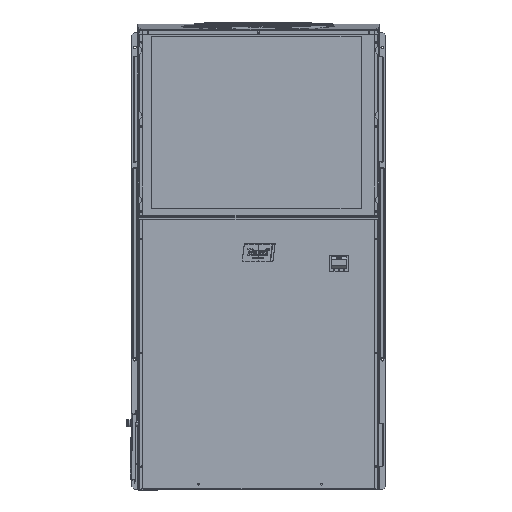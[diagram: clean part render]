
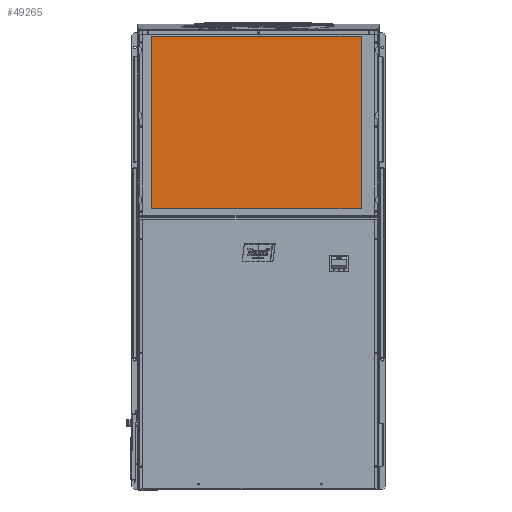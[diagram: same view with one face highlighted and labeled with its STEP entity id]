
A CAD part, top view. The second image highlights one B-rep face of the part: STEP entity #49265.
In plain terms, the highlighted planar face has unit normal (0, 0, 1).
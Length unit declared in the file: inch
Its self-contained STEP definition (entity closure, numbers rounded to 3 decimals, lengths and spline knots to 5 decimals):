
#5994 = ORIENTED_EDGE ( 'NONE', *, *, #65967, .T. ) ;
#8623 = CARTESIAN_POINT ( 'NONE',  ( -30.95619, 38.79123, 0.028 ) ) ;
#14607 = CARTESIAN_POINT ( 'NONE',  ( 1.29381, 12.36313, 0.028 ) ) ;
#16249 = DIRECTION ( 'NONE',  ( 0., 0., 1. ) ) ;
#18789 = CARTESIAN_POINT ( 'NONE',  ( -30.95619, 12.36313, 0.028 ) ) ;
#20671 = EDGE_LOOP ( 'NONE', ( #5994, #107908, #72309, #51583 ) ) ;
#23962 = DIRECTION ( 'NONE',  ( 0., 1., 0. ) ) ;
#25529 = VECTOR ( 'NONE', #23962, 39.37008 ) ;
#27054 = CARTESIAN_POINT ( 'NONE',  ( 1.29381, 38.79123, 0.028 ) ) ;
#33092 = VERTEX_POINT ( 'NONE', #14607 ) ;
#42714 = AXIS2_PLACEMENT_3D ( 'NONE', #92560, #16249, #75319 ) ;
#42787 = DIRECTION ( 'NONE',  ( 1., 0., 0. ) ) ;
#44182 = VECTOR ( 'NONE', #95505, 39.37008 ) ;
#46285 = VERTEX_POINT ( 'NONE', #80474 ) ;
#47009 = VERTEX_POINT ( 'NONE', #27054 ) ;
#49145 = PLANE ( 'NONE',  #42714 ) ;
#49265 = ADVANCED_FACE ( 'NONE', ( #68592 ), #49145, .T. ) ;
#51012 = DIRECTION ( 'NONE',  ( -1., 0., 0. ) ) ;
#51583 = ORIENTED_EDGE ( 'NONE', *, *, #58579, .T. ) ;
#53890 = EDGE_CURVE ( 'NONE', #33092, #47009, #90257, .T. ) ;
#55863 = CARTESIAN_POINT ( 'NONE',  ( -30.95619, 38.79123, 0.028 ) ) ;
#58579 = EDGE_CURVE ( 'NONE', #47009, #73632, #77726, .T. ) ;
#60387 = VECTOR ( 'NONE', #42787, 39.37008 ) ;
#60460 = CARTESIAN_POINT ( 'NONE',  ( -30.95619, 38.79123, 0.028 ) ) ;
#65967 = EDGE_CURVE ( 'NONE', #73632, #46285, #103306, .T. ) ;
#68592 = FACE_OUTER_BOUND ( 'NONE', #20671, .T. ) ;
#70061 = LINE ( 'NONE', #18789, #60387 ) ;
#72309 = ORIENTED_EDGE ( 'NONE', *, *, #53890, .T. ) ;
#73632 = VERTEX_POINT ( 'NONE', #55863 ) ;
#75319 = DIRECTION ( 'NONE',  ( 1., 0., 0. ) ) ;
#77127 = EDGE_CURVE ( 'NONE', #46285, #33092, #70061, .T. ) ;
#77726 = LINE ( 'NONE', #8623, #89580 ) ;
#80474 = CARTESIAN_POINT ( 'NONE',  ( -30.95619, 12.36313, 0.028 ) ) ;
#81338 = CARTESIAN_POINT ( 'NONE',  ( 1.29381, 38.79123, 0.028 ) ) ;
#89580 = VECTOR ( 'NONE', #51012, 39.37008 ) ;
#90257 = LINE ( 'NONE', #81338, #25529 ) ;
#92560 = CARTESIAN_POINT ( 'NONE',  ( 0., 0., 0.028 ) ) ;
#95505 = DIRECTION ( 'NONE',  ( 0., -1., 0. ) ) ;
#103306 = LINE ( 'NONE', #60460, #44182 ) ;
#107908 = ORIENTED_EDGE ( 'NONE', *, *, #77127, .T. ) ;
